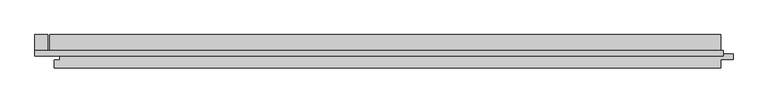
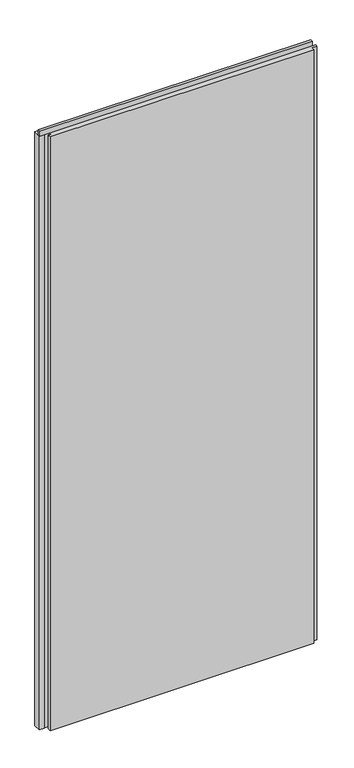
"""IFC4 building model written with IfcOpenShell, lengths in millimetres: plate geometry, Trimo_Qbiss Screen_Normal Panel-VERTICAL : HR - FB."""

from ifc_helpers import new_model, si_unit, frame, origin, place, context, project, spatial, polyline, outline, extrude, source, transform, mapped, element, save


def plate_869ad82a(model_context):
    return source(origin(), model_context, "Body", "SweptSolid", [
        extrude(outline(polyline([(-531.0, 97.0), (-531.0, 126.0), (-512.0, 126.0), (-512.0, 97.0), (-531.0, 97.0)])), frame((0.0, 0.0, 12.5), z_axis=(0.0, 0.0, 1.0), x_axis=(1.0, 0.0, 0.0)), (0.0, 0.0, 1.0), 2375.0),
        extrude(outline(polyline([(-531.0, 93.9), (-531.0, 102.6), (500.0, 102.6), (500.0, 93.9), (-531.0, 93.9)])), frame((0.0, 0.0, 2390.5), z_axis=(0.0, 0.0, 1.0), x_axis=(1.0, 0.0, 0.0)), (0.0, 0.0, 1.0), 19.0),
        extrude(outline(polyline([(496.0, 97.0), (514.5, 97.0), (514.5, 89.0), (496.0, 89.0), (496.0, 76.0), (-502.0, 76.0), (-502.0, 88.0), (-493.5, 88.0), (-493.5, 98.0), (-509.0, 98.0), (-509.0, 126.0), (496.0, 126.0), (496.0, 97.0)])), frame((0.0, 0.0, 12.5), z_axis=(0.0, 0.0, 1.0), x_axis=(1.0, 0.0, 0.0)), (0.0, 0.0, 1.0), 2375.0),
    ])


if __name__ == "__main__":
    model = new_model("IFC4")
    model_context = context("Model", 3, world=origin())
    ifc_project = project(units=[si_unit("LENGTHUNIT", "METRE", prefix="MILLI")], contexts=[model_context])
    site = spatial("IfcSite", under=ifc_project)
    building = spatial("IfcBuilding", under=site)
    placement = place(None, origin())
    plate_shape = plate_869ad82a(model_context)
    element("IfcPlate", 1, ObjectType="Trimo_Qbiss Screen_Normal Panel-VERTICAL : HR - FB", at=placement, inside=building, context=model_context, shape_type="MappedRepresentation", body=[
        mapped(plate_shape, transform((0.0, 0.0, 0.0), x_axis=(1.0, 0.0, 0.0), y_axis=(0.0, 1.0, 0.0), z_axis=(0.0, 0.0, 1.0))),
    ])
    save(model, "model.ifc")
